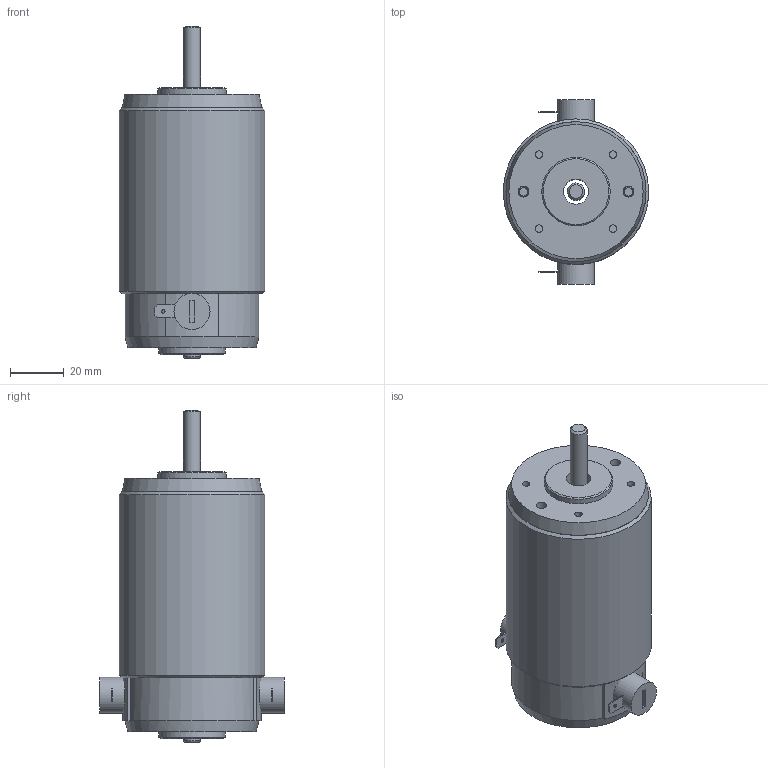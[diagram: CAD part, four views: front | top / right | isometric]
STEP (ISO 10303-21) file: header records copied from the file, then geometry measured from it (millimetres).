
FILE_DESCRIPTION(/* description */ (''),/* implementation_level */ '2;1');
FILE_NAME(/* name */ 'Z:\새 폴더\Compact Type RM5_3D\RM53_TYPE.stp',/* time_stamp */ '2022-04-05T16:43:52+09:00',/* author */ ('umbro'),/* organization */ (''),/* preprocessor_version */ 'ST-DEVELOPER v17',/* originating_system */ 'Autodesk Inventor 2019',/* authorisation */ '');
FILE_SCHEMA (('AUTOMOTIVE_DESIGN { 1 0 10303 214 3 1 1 }'));
Length unit declared in the file: millimetre
Products named in the file (11): RM53_TYPE; RM53_SHAFT; RM5_TYPE_REAR_HOUSING; RM5_REAR; BRUSH_HOLDER_ASSY; BRUSH_HOLDER_ASSY_MIR; RM5_BRUSH_COVER_RED; RM5_BRUSH_COVER_BRACK; RM5_PIPE_pi54XL69; RM5_FRONT; AS 1427 Z - 미터 M4 x 50
Assembly tree (11 placements, depth 3):
  RM53_TYPE
    RM53_SHAFT
    RM5_TYPE_REAR_HOUSING
      RM5_REAR
      BRUSH_HOLDER_ASSY
      BRUSH_HOLDER_ASSY_MIR
      RM5_BRUSH_COVER_RED
      RM5_BRUSH_COVER_BRACK
    RM5_PIPE_pi54XL69
    RM5_FRONT
    AS 1427 Z - 미터 M4 x 50  x2
Bounding box: 54 x 68.6 x 123.2 mm (x, y, z)
Volume: 79637.2 mm3; surface area: 44698.4 mm2
Topology: 10 solids, 10 shells, 189 faces, 472 edges, 313 vertices
Faces by surface type: plane 96, cylinder 43, cone 41, torus 9
Full cylindrical faces by diameter (mm): 1.3 x2, 2.8 x7, 3.571 x2, 4 x4, 4.2 x2, 5.76 x3, 6.336 x1, 7 x2, 9.3 x2, 11 x4, 13.4 x2, 24.5 x1, 25.4 x1, 46 x2, 49.6 x1, 54 x1
Entity records: 5241 total; most frequent: CARTESIAN_POINT 1197, DIRECTION 793, ORIENTED_EDGE 714, EDGE_CURVE 357, AXIS2_PLACEMENT_3D 314, VERTEX_POINT 238, EDGE_LOOP 189, LINE 165
